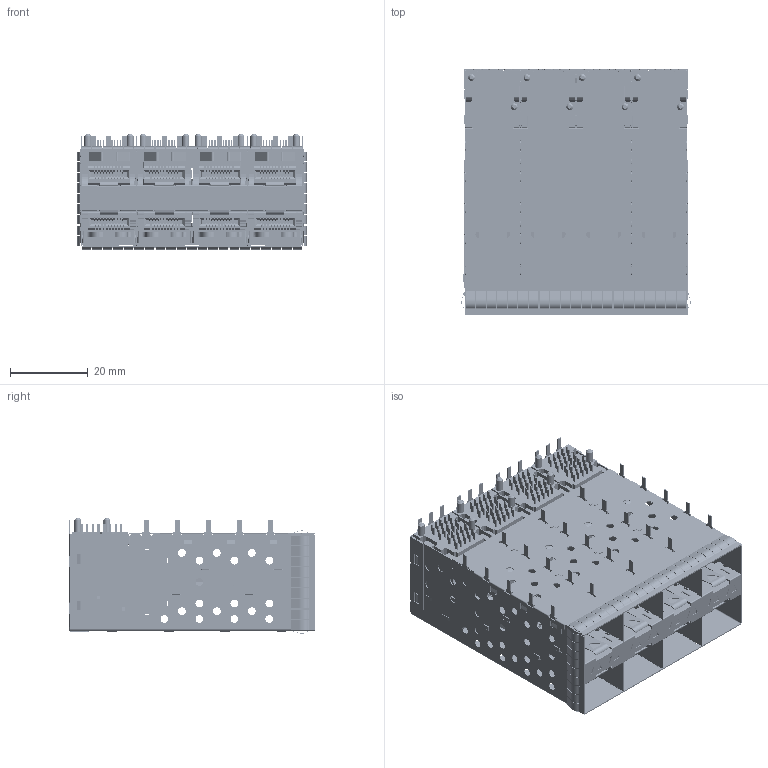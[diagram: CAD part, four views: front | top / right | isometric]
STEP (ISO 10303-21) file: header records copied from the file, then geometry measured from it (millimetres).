
FILE_DESCRIPTION((''),'2;1');
FILE_NAME('SFP_2X4-3D-ESFP11092601-C-REV_D','2018-02-05T',('Administrator'),(''),'PRO/ENGINEER BY PARAMETRIC TECHNOLOGY CORPORATION, 2009440','PRO/ENGINEER BY PARAMETRIC TECHNOLOGY CORPORATION, 2009440','');
FILE_SCHEMA(('CONFIG_CONTROL_DESIGN'));
Products named in the file (1): SFP_2X4-3D-ESFP11092601-C-REV_D
Bounding box: 58.97 x 63.4 x 29.68 mm (x, y, z)
Volume: 30131.4 mm3; surface area: 82275.9 mm2
Topology: 3 solids, 43 shells, 20766 faces, 57345 edges, 36350 vertices
Faces by surface type: plane 14506, cylinder 5872, bspline 196, extrusion 160, sphere 16, cone 16
Entity records: 671913 total; most frequent: CARTESIAN_POINT 134194, ORIENTED_EDGE 114658, DIRECTION 108453, EDGE_CURVE 57329, VECTOR 44035, LINE 43875, VERTEX_POINT 36350, AXIS2_PLACEMENT_3D 32209
